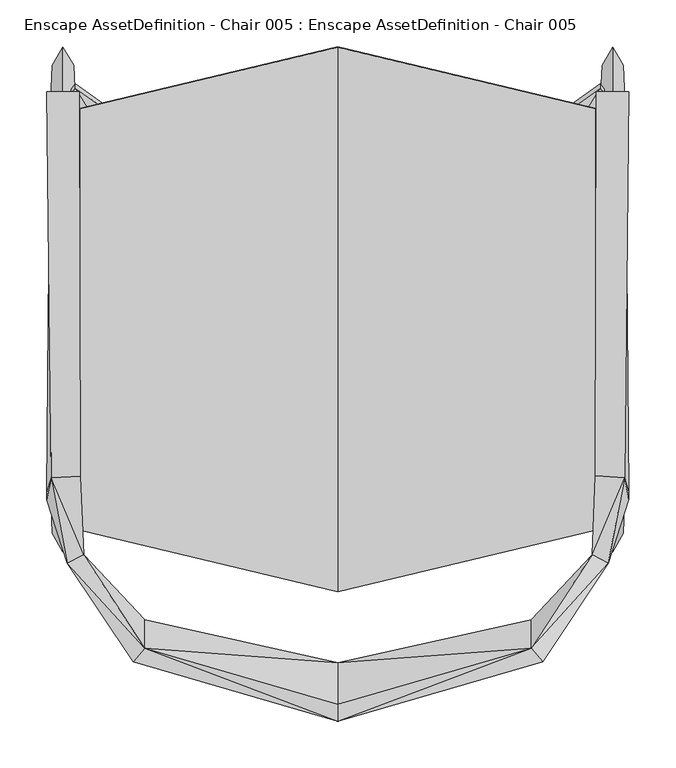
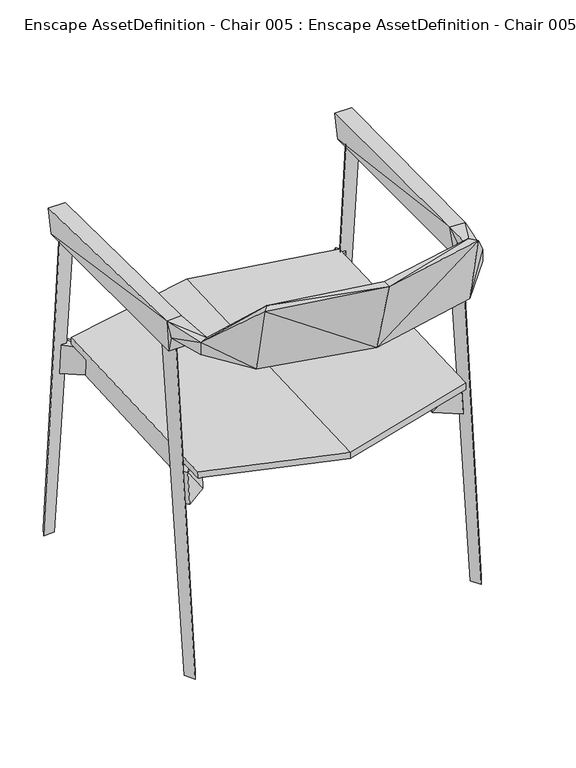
"""IFC4 building model written with IfcOpenShell, lengths in millimetres: geographic element geometry, Enscape AssetDefinition - Chair 005 : Enscape AssetDefinition - Chair 005."""

from ifc_helpers import new_model, si_unit, origin, place, context, project, spatial, triangles, source, transform, mapped, element, save


def enscape_assetdefinition_chair_005_enscape_assetdefinition_cb8def9a(model_context):
    return source(origin(), model_context, "Body", "Tessellation", [
        triangles([(305.7359894, 274.8019946, 0.138), (294.4769928, 237.7349984, 678.7809517), (280.2700111, 213.1000013, 678.985009), (-308.6839926, 213.1000013, 678.985009), (-305.7359894, 274.8019946, 0.138), (-280.2700111, 213.1000013, 678.985009), (308.6839926, 213.1000013, 678.985009), (283.2179961, 274.8019946, 0.138), (294.4769928, 294.3719846, -0.014), (-283.2179961, 274.8019946, 0.138), (-294.4769928, 237.7349984, 678.7809517), (-294.4769928, 294.3719846, -0.014), (294.4769928, -246.2770097, -0.014), (283.2179961, -226.7070014, 0.138), (280.2700111, -154.1160108, 678.6199877), (308.6839926, -154.1160108, 678.6199877), (294.4769928, -178.6009988, 681.3480188), (-280.2700111, -154.1160108, 678.6199877), (-305.7359894, -226.7070014, 0.138), (-283.2179961, -226.7070014, 0.138), (-294.4769928, -178.6009988, 681.3480188), (-308.6839926, -154.1160108, 678.6199877), (305.7359894, -226.7070014, 0.138), (-294.4769928, -246.2770097, -0.014), (236.1120051, 222.6839912, 371.0039895), (236.0279986, -167.6850045, 410.1319791), (236.1120051, -172.975997, 350.3229844), (281.0809899, 255.1440012, 371.0039895), (281.1639972, -196.8659995, 415.4179936), (255.430012, -157.4270006, 409.0969769), (255.5150177, -162.7189922, 349.2879822), (281.0809899, -204.3909944, 350.3229844), (291.9340157, -188.3960042, 348.6819872), (292.0170048, -180.8699919, 413.7769964), (236.0289979, 217.9590071, 430.9389939), (255.4289947, 208.0569952, 430.1949986), (292.4250104, 239.4530076, 369.7959964), (255.5130193, 212.7819975, 370.2589768), (292.509998, 234.5439867, 435.0439759), (281.1649964, 250.2349985, 436.2510243), (-281.0809899, 255.1440012, 371.0039895), (-236.1120051, 222.6839912, 371.0039895), (-281.1639972, -196.8659995, 415.4179936), (-236.0279986, -167.6850045, 410.1319791), (-236.0289979, 217.9590071, 430.9389939), (-236.1120051, -172.975997, 350.3229844), (-281.0809899, -204.3909944, 350.3229844), (-291.9340157, -188.3960042, 348.6819872), (-292.0170048, -180.8699919, 413.7769964), (-255.4289947, 208.0569952, 430.1949986), (-255.430012, -157.4270006, 409.0969769), (-255.5130193, 212.7819975, 370.2589768), (-292.4250104, 239.4530076, 369.7959964), (-281.1649964, 250.2349985, 436.2510243), (-292.509998, 234.5439867, 435.0439759), (-255.5150177, -162.7189922, 349.2879822), (277.0180112, 246.3040066, 732.7280222), (280.7329916, 242.3120082, 677.6069681), (308.2210121, 242.3149877, 677.6069681), (307.3019912, -167.4580017, 735.6819843), (311.9349933, 246.3080034, 732.7280222), (276.0860005, -165.428002, 735.6819843), (311.9759791, -182.0540039, 681.6679848), (277.0599963, -182.0560023, 681.6679848), (277.0599963, -190.6629988, 715.4430307), (272.5119817, -250.077995, 738.6379812), (272.4849848, -250.1240132, 712.658971), (311.9759791, -190.6590019, 715.4430307), (290.0510093, -258.8680108, 712.658971), (219.4799898, -334.1019905, 701.7860155), (290.0780062, -258.8219925, 738.6379812), (219.5249907, -364.309994, 845.8290401), (207.0750057, -319.7300117, 701.7860155), (-219.4420016, -364.359991, 845.8290401), (0.044, -383.4980307, 702.2179659), (0.049, -428.2839961, 862.1380011), (0.042, -365.4069838, 702.2179659), (207.1190074, -349.9380152, 845.8290401), (0.047, -410.1929855, 862.1380011), (-219.4039952, -334.1520238, 701.7860155), (-290.0189981, -258.8880132, 738.6379812), (-289.9920012, -258.9339951, 712.6579536), (-272.4550085, -250.1400188, 738.6379812), (-207.039997, -349.9849963, 845.8290401), (-272.4280116, -250.1860007, 712.6579536), (-311.9329948, -190.7300005, 715.4430307), (-311.9359743, -182.1250025, 681.6669674), (-277.0169938, -190.7260036, 715.4430307), (-277.0200096, -182.118989, 681.6669674), (-276.0489933, -165.4910069, 735.6819843), (-207.0019906, -319.7770291, 701.7860155), (-280.7869853, 242.2480042, 677.6069681), (-311.9900044, 246.2369867, 732.7280222), (-277.0730042, 246.2410017, 732.7280222), (-308.2750059, 242.2450065, 677.6069681), (-307.2639848, -167.528001, 735.6819843), (0.0, -289.0950175, 402.8770077), (-275.7459958, -223.1010079, 417.0279971), (0.0, 294.6009859, 426.4649938), (0.0, 294.0339965, 440.5079956), (275.7459958, -223.6690146, 431.0700179), (0.0, -289.6629879, 416.9200095), (275.7459958, 228.6069945, 435.2820065), (275.7459958, -223.1010079, 417.0279971), (-275.7459958, 228.0399869, 449.3240273), (-275.7459958, 228.6069945, 435.2820065), (275.7459958, 228.0399869, 449.3240273), (-275.7459958, -223.6690146, 431.0700179)], [[108, 105, 98], [107, 101, 103], [108, 98, 102], [101, 102, 104], [105, 100, 106], [107, 103, 100], [105, 108, 100], [107, 100, 101], [97, 98, 99], [103, 104, 99], [98, 105, 106], [103, 101, 104], [102, 98, 97], [104, 102, 97], [106, 100, 99], [100, 103, 99], [100, 108, 102], [101, 100, 102], [99, 98, 106], [99, 104, 97], [87, 95, 89], [95, 87, 96], [89, 95, 92], [94, 92, 93], [93, 95, 96], [93, 92, 95], [89, 92, 90], [92, 94, 90], [94, 93, 90], [90, 93, 96], [79, 77, 84], [79, 78, 77], [84, 77, 91], [90, 96, 83], [91, 83, 84], [88, 89, 90], [83, 88, 90], [86, 96, 87], [88, 86, 89], [89, 86, 87], [85, 83, 91], [85, 88, 83], [85, 86, 88], [82, 86, 85], [83, 81, 84], [96, 86, 81], [83, 96, 81], [81, 86, 82], [82, 85, 80], [80, 85, 91], [80, 81, 82], [74, 81, 80], [84, 81, 74], [79, 84, 76], [76, 84, 74], [76, 78, 79], [72, 78, 76], [76, 74, 75], [77, 75, 91], [76, 75, 72], [75, 74, 80], [91, 75, 80], [77, 73, 75], [77, 78, 73], [72, 75, 70], [75, 73, 70], [72, 71, 78], [72, 70, 71], [71, 70, 69], [69, 68, 71], [73, 67, 70], [69, 67, 68], [70, 67, 69], [78, 66, 73], [73, 66, 67], [78, 71, 66], [67, 66, 65], [68, 67, 65], [63, 68, 64], [64, 68, 65], [64, 59, 63], [71, 60, 66], [68, 63, 60], [59, 60, 63], [71, 68, 60], [66, 60, 62], [65, 62, 64], [65, 66, 62], [58, 59, 64], [58, 64, 62], [57, 58, 62], [61, 60, 59], [57, 61, 58], [60, 61, 62], [58, 61, 59], [62, 61, 57], [48, 56, 47], [49, 56, 48], [54, 45, 41], [54, 41, 55], [55, 41, 53], [55, 50, 54], [54, 50, 45], [53, 50, 55], [53, 41, 52], [52, 50, 53], [50, 51, 45], [51, 56, 49], [50, 52, 51], [51, 52, 56], [49, 48, 43], [49, 43, 51], [43, 48, 47], [47, 46, 43], [47, 56, 46], [45, 51, 44], [51, 43, 44], [43, 46, 44], [52, 42, 56], [46, 42, 44], [52, 41, 42], [56, 42, 46], [41, 45, 42], [44, 42, 45], [38, 28, 37], [37, 28, 39], [39, 28, 40], [39, 40, 36], [39, 36, 37], [37, 36, 38], [36, 40, 35], [28, 35, 40], [36, 35, 30], [30, 38, 36], [31, 38, 30], [34, 31, 30], [33, 31, 34], [33, 32, 31], [34, 29, 33], [33, 29, 32], [30, 29, 34], [31, 32, 27], [29, 27, 32], [26, 29, 30], [26, 27, 29], [30, 35, 26], [25, 28, 38], [27, 25, 31], [25, 35, 28], [35, 25, 26], [31, 25, 38], [26, 25, 27], [24, 20, 21], [24, 21, 19], [22, 18, 19], [13, 17, 14], [16, 17, 23], [23, 14, 16], [18, 22, 21], [21, 20, 18], [19, 21, 22], [19, 18, 20], [19, 20, 24], [17, 16, 15], [14, 17, 15], [23, 17, 13], [16, 14, 15], [13, 14, 23], [12, 11, 10], [12, 5, 11], [6, 4, 10], [9, 8, 2], [7, 1, 2], [3, 8, 7], [11, 4, 6], [10, 11, 6], [11, 5, 4], [10, 4, 5], [12, 10, 5], [3, 7, 2], [2, 8, 3], [2, 1, 9], [7, 8, 1], [1, 8, 9]]),
    ])


if __name__ == "__main__":
    model = new_model("IFC4")
    model_context = context("Model", 3, world=origin())
    ifc_project = project(units=[si_unit("LENGTHUNIT", "METRE", prefix="MILLI")], contexts=[model_context])
    site = spatial("IfcSite", under=ifc_project)
    building = spatial("IfcBuilding", under=site)
    placement = place(None, origin())
    enscape_assetdefinition_chair_005_enscape_assetdefinition_shape = enscape_assetdefinition_chair_005_enscape_assetdefinition_cb8def9a(model_context)
    element("IfcGeographicElement", 1, ObjectType="Enscape AssetDefinition - Chair 005 : Enscape AssetDefinition - Chair 005", at=placement, inside=building, context=model_context, shape_type="MappedRepresentation", body=[
        mapped(enscape_assetdefinition_chair_005_enscape_assetdefinition_shape, transform((0.0, 0.0, 0.0), x_axis=(1.0, 0.0, 0.0), y_axis=(0.0, 1.0, 0.0), z_axis=(0.0, 0.0, 1.0))),
    ])
    save(model, "model.ifc")
